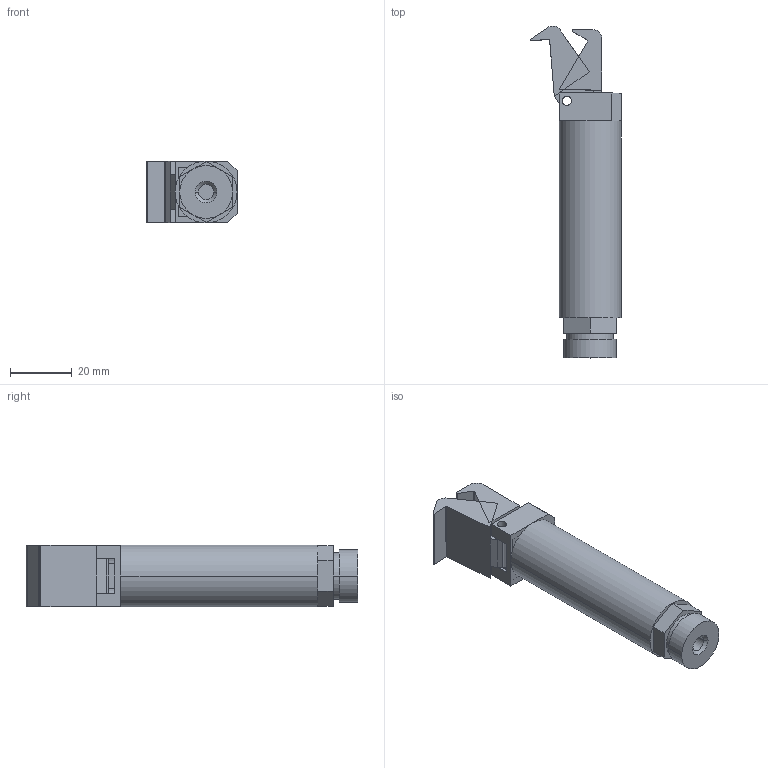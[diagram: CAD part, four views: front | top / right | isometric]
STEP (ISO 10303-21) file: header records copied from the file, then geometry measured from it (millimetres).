
FILE_DESCRIPTION (( 'STEP AP214' ), '1' );
FILE_NAME ('GFA20-35-C.STEP', '2019-11-13T01:04:02', ( '微软用户' ), ( '微软中国' ), 'SwSTEP 2.0', 'SolidWorks 2016', '' );
FILE_SCHEMA (( 'AUTOMOTIVE_DESIGN' ));
Length unit declared in the file: millimetre
Products named in the file (1): GFA20-35-C
Bounding box: 29.1 x 107.12 x 20 mm (x, y, z)
Volume: 29967.1 mm3; surface area: 11635.3 mm2
Topology: 3 solids, 3 shells, 100 faces, 260 edges, 168 vertices
Faces by surface type: plane 66, cylinder 32, cone 2
Entity records: 4212 total; most frequent: CARTESIAN_POINT 541, DIRECTION 526, ORIENTED_EDGE 520, EDGE_CURVE 260, LINE 188, VECTOR 188, AXIS2_PLACEMENT_3D 169, VERTEX_POINT 168
